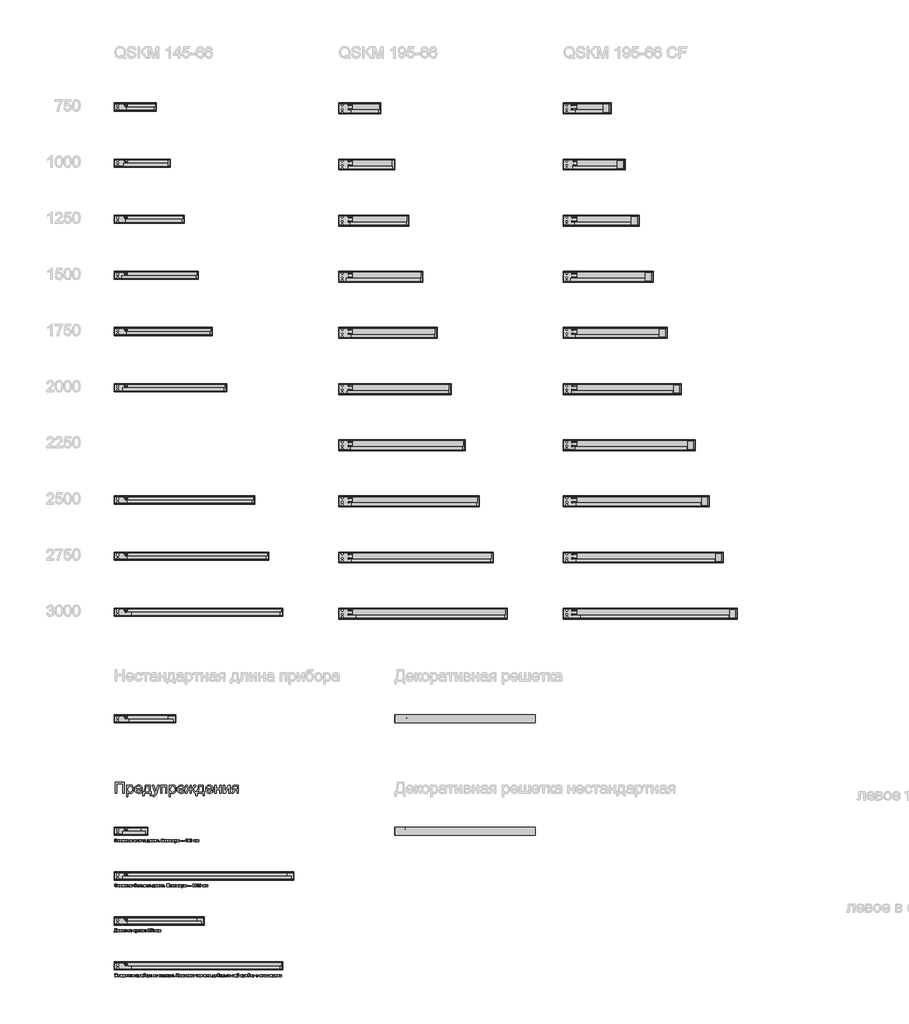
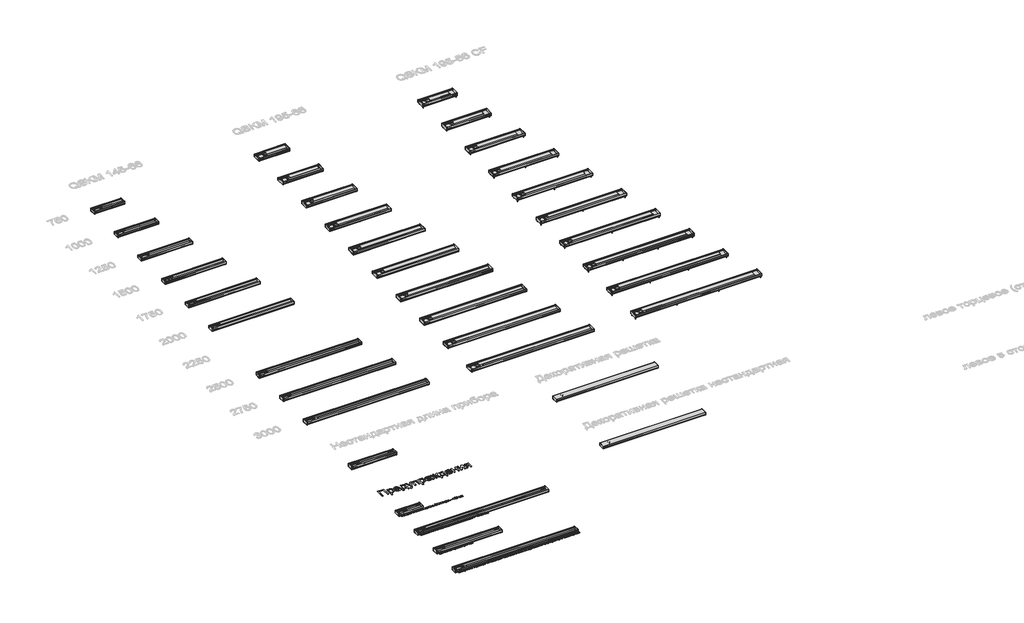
# One storey, part 1 of 17: 37 proxies.
"""IFC4 building model written with IfcOpenShell, lengths in millimetres."""

from ifc_helpers import new_model, si_unit, origin, origin_with_axes, place, context, project, spatial, polyline, outline, extrude, transform, mapped, element, save
from components import proxy_145_x_66_fdde3b2e, proxy_145_x_66_6c518053, proxy_145_x_66_d34efbbd, proxy_145_x_66_0b6a45b0, proxy_145_x_66_164ab2c3, proxy_145_x_66_e9fb857a, proxy_145_x_66_9a70aef4, proxy_145_x_66_d8024be9, proxy_145_x_66_30bb2a4e, proxy_145_x_66_77f280cb, proxy_145_x_66_4cadcc30, proxy_145_x_66_553b1ab1, proxy_145_x_66_f7945d83, proxy_145_x_66_126cd703, proxy_145_x_66_3a62f989, proxy_145_x_66_dd4702fc, proxy_145_x_66_776afb94, proxy_145_x_66_9b323317, proxy_145_x_66_7399c8b9, proxy_145_x_66_f7e18ef1, proxy_145_x_66_a9dd490d, proxy_145_x_66_dd4c954e, proxy_195_x_66_cb3d574a, proxy_195_x_66_7b87efa3, proxy_195_x_66_b28eacb2, proxy_195_x_66_d0637520, proxy_195_x_66_bf0ae810, proxy_195_x_66_bc7bac23, proxy_195_x_66_aa6f77ee, proxy_195_x_66_c971d223, proxy_195_x_66_e939ad13, proxy_195_x_66_0fd88f3c, proxy_195_x_66_8d3d11f8, proxy_195_x_66_55b345ae, proxy_195_x_66_6e926e30, proxy_195_x_66_cf_20c1678a, proxy_195_x_66_cf_8ee333b8, proxy_195_x_66_cf_f7968546, proxy_195_x_66_cf_feebd39c, proxy_195_x_66_cf_08affbe3, proxy_195_x_66_cf_86ed2aa7, proxy_195_x_66_cf_9923b446, proxy_195_x_66_cf_01404605, proxy_195_x_66_cf_dcdc219b, proxy_195_x_66_cf_5712bf5f, proxy_195_x_66_cf_cbb57332, proxy_195_x_66_cf_03e56c4b, proxy_195_x_66_cf_45be2cf6, proxy_195_x_66_cf_4e1b1b7e

model = new_model("IFC4")

# Units and contexts
model_context = context("Model", 3, world=origin())
ifc_project = project(units=[si_unit("LENGTHUNIT", "METRE", prefix="MILLI")], contexts=[model_context])

# Site, building, storey
site = spatial("IfcSite", under=ifc_project)
building = spatial("IfcBuilding", under=site)
storey = spatial("IfcBuildingStorey", under=building, Name="Уровень 1", Elevation=0.0)

# Proxies
placement = place(None, origin())
element("IfcBuildingElementProxy", 1, Name="Текст модели 1", ObjectType="Текст модели 1", at=placement, inside=storey, context=model_context, shape_type="SweptSolid", body=[
    extrude(outline(polyline([(1703.9858303, -9407.3298499), (1860.9488149, -9407.3298499), (1860.9488149, -9608.2424702), (1835.8347374, -9608.2424702), (1835.8347374, -9432.4439275), (1729.0999078, -9432.4439275), (1729.0999078, -9608.2424702), (1703.9858303, -9608.2424702), (1703.9858303, -9407.3298499)])), origin_with_axes(), (0.0, 0.0, 1.0), 2.0),
    extrude(outline(polyline([(1901.7591909, -9664.7491447), (1901.7591909, -9460.6972647), (1926.8732685, -9460.6972647), (1926.8732685, -9485.3208329), (1944.2372986, -9464.498712), (1954.930402, -9459.2931818), (1967.6836445, -9457.558005), (1984.6675299, -9459.9860262), (1999.5176998, -9467.2700897), (2011.6087547, -9478.9687371), (2020.3152952, -9494.6405101), (2025.5760078, -9513.1449745), (2027.3295786, -9533.341696), (2025.3491472, -9554.8198732), (2019.407853, -9574.0294447), (2009.6957683, -9589.9955233), (1996.4029655, -9601.7432217), (1980.9212649, -9608.9721029), (1964.6424866, -9611.3817299), (1953.0971233, -9609.7691805), (1942.7902961, -9604.9315323), (1926.8732685, -9588.6220972), (1926.8732685, -9664.7491447), (1901.7591909, -9664.7491447)]), holes=[polyline([(1926.8732685, -9535.6470899), (1929.5894639, -9558.161468), (1937.73805, -9573.9068174), (1949.7616599, -9583.1774436), (1964.1029264, -9586.2676524), (1978.6771847, -9583.067079), (1991.0073629, -9573.465359), (1999.4134665, -9557.1436611), (2002.2155011, -9533.7831544), (1999.4809116, -9511.3914037), (1991.2771431, -9495.4253251), (1979.2719273, -9485.8603932), (1965.132996, -9482.6720826), (1950.9388823, -9486.0627283), (1938.473814, -9496.2346654), (1929.7734048, -9512.869063), (1926.8732685, -9535.6470899)])]), origin_with_axes(), (0.0, 0.0, 1.0), 2.0),
    extrude(outline(polyline([(2158.8841801, -9564.2928346), (2183.5077483, -9567.4320942), (2174.6356608, -9585.9856095), (2160.4783354, -9599.8547608), (2141.354603, -9608.4999876), (2117.5832948, -9611.3817299), (2088.1159469, -9606.4091916), (2065.4421533, -9591.4915767), (2050.9843909, -9567.5976411), (2046.1651368, -9535.6961408), (2051.0334418, -9502.7216513), (2065.638357, -9478.0612949), (2088.0055823, -9462.6838275), (2116.1608177, -9457.558005), (2143.4392676, -9462.6715648), (2165.2362759, -9478.012244), (2179.5284914, -9502.6235494), (2184.2925632, -9535.548988), (2184.1454104, -9542.3180167), (2071.2792143, -9542.3180167), (2075.6263532, -9561.1167867), (2085.724714, -9574.936887), (2100.2989723, -9583.434961), (2118.0738041, -9586.2676524), (2142.6973723, -9581.0192026), (2151.8453712, -9574.2133857), (2158.8841801, -9564.2928346)]), holes=[polyline([(2071.2792143, -9517.2039392), (2159.1784857, -9517.2039392), (2155.7817086, -9503.9356619), (2149.1230445, -9494.4443064), (2134.4813411, -9485.6151385), (2116.0627158, -9482.6720826), (2099.1340127, -9485.020396), (2085.1361028, -9492.0653362), (2075.405624, -9503.0466137), (2071.2792143, -9517.2039392)])]), origin_with_axes(), (0.0, 0.0, 1.0), 2.0),
    extrude(outline(polyline([(2231.3814586, -9460.6972647), (2325.5592494, -9460.6972647), (2325.5592494, -9583.1283927), (2344.3948075, -9583.1283927), (2344.3948075, -9649.0528462), (2319.28073, -9649.0528462), (2319.28073, -9608.2424702), (2215.6851601, -9608.2424702), (2215.6851601, -9649.0528462), (2190.5710826, -9649.0528462), (2190.5710826, -9583.1283927), (2206.2673811, -9583.1283927), (2217.6778543, -9562.5086069), (2225.6670249, -9535.2301569), (2230.234893, -9501.2930429), (2231.3814586, -9460.6972647)]), holes=[polyline([(2253.3562764, -9485.8113423), (2247.4701645, -9543.0292552), (2234.5207183, -9583.1283927), (2300.4451718, -9583.1283927), (2300.4451718, -9485.8113423), (2253.3562764, -9485.8113423)])]), origin_with_axes(), (0.0, 0.0, 1.0), 2.0),
    extrude(outline(polyline([(2372.6481447, -9664.7491447), (2369.508885, -9640.5670349), (2382.2621275, -9642.7743269), (2394.1815042, -9640.0029492), (2401.4900932, -9632.2774273), (2408.3572237, -9613.7852256), (2410.319261, -9607.70291), (2356.9518463, -9460.6972647), (2383.4393499, -9460.6972647), (2411.7417381, -9542.6123223), (2421.6009756, -9575.3783453), (2431.460213, -9546.4382951), (2460.5474161, -9460.6972647), (2486.838716, -9460.6972647), (2435.4823895, -9611.7741374), (2422.1405358, -9644.5401604), (2407.5724088, -9662.2475471), (2388.0010867, -9667.8884044), (2372.6481447, -9664.7491447)])), origin_with_axes(), (0.0, 0.0, 1.0), 2.0),
    extrude(outline(polyline([(2507.6363115, -9460.6972647), (2620.6496604, -9460.6972647), (2620.6496604, -9608.2424702), (2595.5355829, -9608.2424702), (2595.5355829, -9485.8113423), (2532.750389, -9485.8113423), (2532.750389, -9608.2424702), (2507.6363115, -9608.2424702), (2507.6363115, -9460.6972647)])), origin_with_axes(), (0.0, 0.0, 1.0), 2.0),
    extrude(outline(polyline([(2658.3207767, -9664.7491447), (2658.3207767, -9460.6972647), (2683.4348543, -9460.6972647), (2683.4348543, -9485.3208329), (2700.7988844, -9464.498712), (2711.4919878, -9459.2931818), (2724.2452303, -9457.558005), (2741.2291157, -9459.9860262), (2756.0792856, -9467.2700897), (2768.1703405, -9478.9687371), (2776.876881, -9494.6405101), (2782.1375936, -9513.1449745), (2783.8911644, -9533.341696), (2781.910733, -9554.8198732), (2775.9694388, -9574.0294447), (2766.2573541, -9589.9955233), (2752.9645514, -9601.7432217), (2737.4828507, -9608.9721029), (2721.2040724, -9611.3817299), (2709.6587092, -9609.7691805), (2699.3518819, -9604.9315323), (2683.4348543, -9588.6220972), (2683.4348543, -9664.7491447), (2658.3207767, -9664.7491447)]), holes=[polyline([(2683.4348543, -9535.6470899), (2686.1510497, -9558.161468), (2694.2996359, -9573.9068174), (2706.3232457, -9583.1774436), (2720.6645122, -9586.2676524), (2735.2387706, -9583.067079), (2747.5689488, -9573.465359), (2755.9750523, -9557.1436611), (2758.7770869, -9533.7831544), (2756.0424974, -9511.3914037), (2747.8387289, -9495.4253251), (2735.8335131, -9485.8603932), (2721.6945818, -9482.6720826), (2707.5004681, -9486.0627283), (2695.0353998, -9496.2346654), (2686.3349907, -9512.869063), (2683.4348543, -9535.6470899)])]), origin_with_axes(), (0.0, 0.0, 1.0), 2.0),
    extrude(outline(polyline([(2915.4457659, -9564.2928346), (2940.0693341, -9567.4320942), (2931.1972467, -9585.9856095), (2917.0399212, -9599.8547608), (2897.9161888, -9608.4999876), (2874.1448806, -9611.3817299), (2844.6775328, -9606.4091916), (2822.0037391, -9591.4915767), (2807.5459767, -9567.5976411), (2802.7267226, -9535.6961408), (2807.5950276, -9502.7216513), (2822.1999428, -9478.0612949), (2844.5671682, -9462.6838275), (2872.7224035, -9457.558005), (2900.0008535, -9462.6715648), (2921.7978617, -9478.012244), (2936.0900772, -9502.6235494), (2940.854149, -9535.548988), (2940.7069962, -9542.3180167), (2827.8408001, -9542.3180167), (2832.187939, -9561.1167867), (2842.2862998, -9574.936887), (2856.8605582, -9583.434961), (2874.6353899, -9586.2676524), (2899.2589581, -9581.0192026), (2908.4069571, -9574.2133857), (2915.4457659, -9564.2928346)]), holes=[polyline([(2827.8408001, -9517.2039392), (2915.7400715, -9517.2039392), (2912.3432944, -9503.9356619), (2905.6846303, -9494.4443064), (2891.0429269, -9485.6151385), (2872.6243017, -9482.6720826), (2855.6955985, -9485.020396), (2841.6976886, -9492.0653362), (2831.9672098, -9503.0466137), (2827.8408001, -9517.2039392)])]), origin_with_axes(), (0.0, 0.0, 1.0), 2.0),
    extrude(outline(polyline([(3176.2986259, -9460.6972647), (3270.4764167, -9460.6972647), (3270.4764167, -9583.1283927), (3289.3119749, -9583.1283927), (3289.3119749, -9649.0528462), (3264.1978973, -9649.0528462), (3264.1978973, -9608.2424702), (3160.6023275, -9608.2424702), (3160.6023275, -9649.0528462), (3135.4882499, -9649.0528462), (3135.4882499, -9608.2424702), (3112.9738718, -9608.2424702), (3085.4072477, -9562.6251028), (3071.3541554, -9543.6669174), (3057.0067576, -9539.178757), (3057.0067576, -9608.2424702), (3031.8926801, -9608.2424702), (3031.8926801, -9539.178757), (3017.5943332, -9543.5688155), (3003.4431391, -9562.527001), (2975.876515, -9608.2424702), (2947.1326684, -9608.2424702), (2975.0426491, -9561.9874407), (2991.1681432, -9541.3983117), (3007.6615193, -9531.6249134), (2991.867119, -9521.6185231), (2978.3290616, -9495.8667835), (2971.7071857, -9487.3809721), (2960.8669296, -9485.6641895), (2953.4111878, -9485.8113423), (2953.4111878, -9460.6972647), (2957.1881096, -9460.6972647), (2979.2119784, -9462.2668946), (2990.6408457, -9468.9378214), (3003.4431391, -9491.4521995), (3017.1528748, -9518.1359069), (3022.9347535, -9522.1458206), (3031.8926801, -9523.4824586), (3031.8926801, -9460.6972647), (3057.0067576, -9460.6972647), (3057.0067576, -9523.4824586), (3065.8665824, -9522.1887402), (3071.648461, -9518.3075852), (3085.5053495, -9491.4521995), (3094.1505764, -9474.7135687), (3102.0355138, -9465.7004599), (3111.6127085, -9461.9480635), (3125.5309106, -9460.6972647), (3135.4882499, -9460.6972647), (3135.4882499, -9485.9584951), (3128.5720684, -9485.8113423), (3115.6226222, -9488.4110417), (3106.6463015, -9504.6959513), (3096.2229783, -9522.5504908), (3081.3360203, -9531.6249134), (3097.75582, -9541.3983117), (3113.7586868, -9561.9874407), (3135.4882499, -9597.873567), (3135.4882499, -9583.1283927), (3151.1845484, -9583.1283927), (3162.5950216, -9562.5086069), (3170.5841923, -9535.2301569), (3175.1520604, -9501.2930429), (3176.2986259, -9460.6972647)]), holes=[polyline([(3198.2734438, -9485.8113423), (3192.3873319, -9543.0292552), (3179.4378856, -9583.1283927), (3245.3623392, -9583.1283927), (3245.3623392, -9485.8113423), (3198.2734438, -9485.8113423)])]), origin_with_axes(), (0.0, 0.0, 1.0), 2.0),
    extrude(outline(polyline([(3420.8665763, -9564.2928346), (3445.4901445, -9567.4320942), (3436.6180571, -9585.9856095), (3422.4607316, -9599.8547608), (3403.3369993, -9608.4999876), (3379.565691, -9611.3817299), (3350.0983432, -9606.4091916), (3327.4245496, -9591.4915767), (3312.9667871, -9567.5976411), (3308.147533, -9535.6961408), (3313.0158381, -9502.7216513), (3327.6207533, -9478.0612949), (3349.9879786, -9462.6838275), (3378.143214, -9457.558005), (3405.4216639, -9462.6715648), (3427.2186721, -9478.012244), (3441.5108876, -9502.6235494), (3446.2749595, -9535.548988), (3446.1278067, -9542.3180167), (3333.2616105, -9542.3180167), (3337.6087495, -9561.1167867), (3347.7071102, -9574.936887), (3362.2813686, -9583.434961), (3380.0562003, -9586.2676524), (3404.6797685, -9581.0192026), (3413.8277675, -9574.2133857), (3420.8665763, -9564.2928346)]), holes=[polyline([(3333.2616105, -9517.2039392), (3421.1608819, -9517.2039392), (3417.7641048, -9503.9356619), (3411.1054407, -9494.4443064), (3396.4637373, -9485.6151385), (3378.0451121, -9482.6720826), (3361.1164089, -9485.020396), (3347.118499, -9492.0653362), (3337.3880203, -9503.0466137), (3333.2616105, -9517.2039392)])]), origin_with_axes(), (0.0, 0.0, 1.0), 2.0),
    extrude(outline(polyline([(3471.389037, -9460.6972647), (3496.5031145, -9460.6972647), (3496.5031145, -9517.2039392), (3562.4275681, -9517.2039392), (3562.4275681, -9460.6972647), (3587.5416456, -9460.6972647), (3587.5416456, -9608.2424702), (3562.4275681, -9608.2424702), (3562.4275681, -9542.3180167), (3496.5031145, -9542.3180167), (3496.5031145, -9608.2424702), (3471.389037, -9608.2424702), (3471.389037, -9460.6972647)])), origin_with_axes(), (0.0, 0.0, 1.0), 2.0),
    extrude(outline(polyline([(3625.2127619, -9460.6972647), (3650.3268395, -9460.6972647), (3650.3268395, -9573.2201043), (3712.0329128, -9460.6972647), (3744.5046302, -9460.6972647), (3744.5046302, -9608.2424702), (3719.3905527, -9608.2424702), (3719.3905527, -9496.4063437), (3658.0768868, -9608.2424702), (3625.2127619, -9608.2424702), (3625.2127619, -9460.6972647)])), origin_with_axes(), (0.0, 0.0, 1.0), 2.0),
    extrude(outline(polyline([(3895.1890954, -9460.6972647), (3895.1890954, -9608.2424702), (3870.0750179, -9608.2424702), (3870.0750179, -9551.7357958), (3856.3898077, -9551.7357958), (3837.7504533, -9554.9241064), (3820.2392703, -9576.359364), (3800.2264898, -9608.2424702), (3771.1883376, -9608.2424702), (3796.400517, -9567.9226036), (3807.5350787, -9553.4525784), (3817.7867237, -9547.0269063), (3800.6188972, -9541.7661937), (3788.5523678, -9531.7720662), (3781.4154571, -9518.4792634), (3779.0364868, -9503.3225252), (3782.2861111, -9486.1301733), (3792.034984, -9472.5185395), (3807.9397489, -9463.6525834), (3829.6570494, -9460.6972647), (3895.1890954, -9460.6972647)]), holes=[polyline([(3870.0750179, -9485.8113423), (3836.9656383, -9485.8113423), (3819.8652569, -9487.2644761), (3810.1593036, -9491.6238778), (3804.1505644, -9505.2355116), (3806.3639877, -9514.8065748), (3813.0042577, -9521.4468449), (3825.2731223, -9525.3279999), (3844.3723292, -9526.6217183), (3870.0750179, -9526.6217183), (3870.0750179, -9485.8113423)])]), origin_with_axes(), (0.0, 0.0, 1.0), 2.0),
])
proxy_145_x_66_shape = proxy_145_x_66_fdde3b2e(model_context)
element("IfcBuildingElementProxy", 2, Name="Mohlenhof_Внутрипольный конвектор_QSKM : 145 x 66", ObjectType="Mohlenhof_Внутрипольный конвектор_QSKM : 145 x 66", at=placement, inside=storey, context=model_context, shape_type="MappedRepresentation", body=[
    mapped(proxy_145_x_66_shape, transform((2232.0110125, -8108.2424702, 0.0), x_axis=(1.0, 0.0, 0.0), y_axis=(0.0, 1.0, 0.0), z_axis=(0.0, 0.0, 1.0))),
])
proxy_145_x_66_2_shape = proxy_145_x_66_6c518053(model_context)
element("IfcBuildingElementProxy", 3, Name="Mohlenhof_Внутрипольный конвектор_QSKM : 145 x 66", ObjectType="Mohlenhof_Внутрипольный конвектор_QSKM : 145 x 66", at=placement, inside=storey, context=model_context, shape_type="MappedRepresentation", body=[
    mapped(proxy_145_x_66_2_shape, transform((2057.0110125, 2791.7575298, 0.0), x_axis=(1.0, 0.0, 0.0), y_axis=(0.0, 1.0, 0.0), z_axis=(0.0, 0.0, 1.0))),
])
proxy_145_x_66_3_shape = proxy_145_x_66_d34efbbd(model_context)
element("IfcBuildingElementProxy", 4, Name="Mohlenhof_Внутрипольный конвектор_QSKM : 145 x 66", ObjectType="Mohlenhof_Внутрипольный конвектор_QSKM : 145 x 66", at=placement, inside=storey, context=model_context, shape_type="MappedRepresentation", body=[
    mapped(proxy_145_x_66_3_shape, transform((2182.0110125, 1791.7575298, 0.0), x_axis=(1.0, 0.0, 0.0), y_axis=(0.0, 1.0, 0.0), z_axis=(0.0, 0.0, 1.0))),
])
proxy_145_x_66_4_shape = proxy_145_x_66_0b6a45b0(model_context)
element("IfcBuildingElementProxy", 5, Name="Mohlenhof_Внутрипольный конвектор_QSKM : 145 x 66", ObjectType="Mohlenhof_Внутрипольный конвектор_QSKM : 145 x 66", at=placement, inside=storey, context=model_context, shape_type="MappedRepresentation", body=[
    mapped(proxy_145_x_66_4_shape, transform((2307.0110125, 791.7575298, 0.0), x_axis=(1.0, 0.0, 0.0), y_axis=(0.0, 1.0, 0.0), z_axis=(0.0, 0.0, 1.0))),
])
proxy_145_x_66_5_shape = proxy_145_x_66_164ab2c3(model_context)
element("IfcBuildingElementProxy", 6, Name="Mohlenhof_Внутрипольный конвектор_QSKM : 145 x 66", ObjectType="Mohlenhof_Внутрипольный конвектор_QSKM : 145 x 66", at=placement, inside=storey, context=model_context, shape_type="MappedRepresentation", body=[
    mapped(proxy_145_x_66_5_shape, transform((2432.0110125, -208.2424702, 0.0), x_axis=(1.0, 0.0, 0.0), y_axis=(0.0, 1.0, 0.0), z_axis=(0.0, 0.0, 1.0))),
])
proxy_145_x_66_6_shape = proxy_145_x_66_e9fb857a(model_context)
element("IfcBuildingElementProxy", 7, Name="Mohlenhof_Внутрипольный конвектор_QSKM : 145 x 66", ObjectType="Mohlenhof_Внутрипольный конвектор_QSKM : 145 x 66", at=placement, inside=storey, context=model_context, shape_type="MappedRepresentation", body=[
    mapped(proxy_145_x_66_6_shape, transform((2557.0110125, -1208.2424702, 0.0), x_axis=(1.0, 0.0, 0.0), y_axis=(0.0, 1.0, 0.0), z_axis=(0.0, 0.0, 1.0))),
])
proxy_145_x_66_7_shape = proxy_145_x_66_9a70aef4(model_context)
element("IfcBuildingElementProxy", 8, Name="Mohlenhof_Внутрипольный конвектор_QSKM : 145 x 66", ObjectType="Mohlenhof_Внутрипольный конвектор_QSKM : 145 x 66", at=placement, inside=storey, context=model_context, shape_type="MappedRepresentation", body=[
    mapped(proxy_145_x_66_7_shape, transform((2682.0110125, -2208.2424702, 0.0), x_axis=(1.0, 0.0, 0.0), y_axis=(0.0, 1.0, 0.0), z_axis=(0.0, 0.0, 1.0))),
])
proxy_145_x_66_8_shape = proxy_145_x_66_d8024be9(model_context)
proxy_145_x_66_9_shape = proxy_145_x_66_30bb2a4e(model_context)
element("IfcBuildingElementProxy", 9, Name="Mohlenhof_Внутрипольный конвектор_QSKM : 145 x 66", ObjectType="Mohlenhof_Внутрипольный конвектор_QSKM : 145 x 66", at=placement, inside=storey, context=model_context, shape_type="MappedRepresentation", body=[
    mapped(proxy_145_x_66_8_shape, transform((2932.0110125, -4208.2424702, 0.0), x_axis=(1.0, 0.0, 0.0), y_axis=(0.0, 1.0, 0.0), z_axis=(0.0, 0.0, 1.0))),
    mapped(proxy_145_x_66_9_shape, transform((2932.0110125, -4208.2424702, 0.0), x_axis=(1.0, 0.0, 0.0), y_axis=(0.0, 1.0, 0.0), z_axis=(0.0, 0.0, 1.0))),
])
proxy_145_x_66_10_shape = proxy_145_x_66_77f280cb(model_context)
proxy_145_x_66_11_shape = proxy_145_x_66_4cadcc30(model_context)
element("IfcBuildingElementProxy", 10, Name="Mohlenhof_Внутрипольный конвектор_QSKM : 145 x 66", ObjectType="Mohlenhof_Внутрипольный конвектор_QSKM : 145 x 66", at=placement, inside=storey, context=model_context, shape_type="MappedRepresentation", body=[
    mapped(proxy_145_x_66_10_shape, transform((3057.0110125, -5208.2424702, 0.0), x_axis=(1.0, 0.0, 0.0), y_axis=(0.0, 1.0, 0.0), z_axis=(0.0, 0.0, 1.0))),
    mapped(proxy_145_x_66_11_shape, transform((3057.0110125, -5208.2424702, 0.0), x_axis=(1.0, 0.0, 0.0), y_axis=(0.0, 1.0, 0.0), z_axis=(0.0, 0.0, 1.0))),
])
proxy_145_x_66_12_shape = proxy_145_x_66_553b1ab1(model_context)
proxy_145_x_66_13_shape = proxy_145_x_66_f7945d83(model_context)
element("IfcBuildingElementProxy", 11, Name="Mohlenhof_Внутрипольный конвектор_QSKM : 145 x 66", ObjectType="Mohlenhof_Внутрипольный конвектор_QSKM : 145 x 66", at=placement, inside=storey, context=model_context, shape_type="MappedRepresentation", body=[
    mapped(proxy_145_x_66_12_shape, transform((3182.0110125, -6208.2424702, 0.0), x_axis=(1.0, 0.0, 0.0), y_axis=(0.0, 1.0, 0.0), z_axis=(0.0, 0.0, 1.0))),
    mapped(proxy_145_x_66_13_shape, transform((3182.0110125, -6208.2424702, 0.0), x_axis=(1.0, 0.0, 0.0), y_axis=(0.0, 1.0, 0.0), z_axis=(0.0, 0.0, 1.0))),
])
proxy_145_x_66_14_shape = proxy_145_x_66_126cd703(model_context)
proxy_145_x_66_15_shape = proxy_145_x_66_3a62f989(model_context)
element("IfcBuildingElementProxy", 12, Name="Mohlenhof_Внутрипольный конвектор_QSKM : 145 x 66", ObjectType="Mohlenhof_Внутрипольный конвектор_QSKM : 145 x 66", at=placement, inside=storey, context=model_context, shape_type="MappedRepresentation", body=[
    mapped(proxy_145_x_66_14_shape, transform((1982.0110125, -10108.2424702, 0.0), x_axis=(1.0, 0.0, 0.0), y_axis=(0.0, 1.0, 0.0), z_axis=(0.0, 0.0, 1.0))),
    mapped(proxy_145_x_66_15_shape, transform((1982.0110125, -10108.2424702, 0.0), x_axis=(1.0, 0.0, 0.0), y_axis=(0.0, 1.0, 0.0), z_axis=(0.0, 0.0, 1.0))),
])
proxy_145_x_66_16_shape = proxy_145_x_66_dd4702fc(model_context)
proxy_145_x_66_17_shape = proxy_145_x_66_776afb94(model_context)
element("IfcBuildingElementProxy", 13, Name="Mohlenhof_Внутрипольный конвектор_QSKM : 145 x 66", ObjectType="Mohlenhof_Внутрипольный конвектор_QSKM : 145 x 66", at=placement, inside=storey, context=model_context, shape_type="MappedRepresentation", body=[
    mapped(proxy_145_x_66_16_shape, transform((3282.0110125, -10908.2424702, 0.0), x_axis=(1.0, 0.0, 0.0), y_axis=(0.0, 1.0, 0.0), z_axis=(0.0, 0.0, 1.0))),
    mapped(proxy_145_x_66_17_shape, transform((3282.0110125, -10908.2424702, 0.0), x_axis=(1.0, 0.0, 0.0), y_axis=(0.0, 1.0, 0.0), z_axis=(0.0, 0.0, 1.0))),
])
proxy_145_x_66_18_shape = proxy_145_x_66_9b323317(model_context)
proxy_145_x_66_19_shape = proxy_145_x_66_7399c8b9(model_context)
element("IfcBuildingElementProxy", 14, Name="Mohlenhof_Внутрипольный конвектор_QSKM : 145 x 66", ObjectType="Mohlenhof_Внутрипольный конвектор_QSKM : 145 x 66", at=placement, inside=storey, context=model_context, shape_type="MappedRepresentation", body=[
    mapped(proxy_145_x_66_18_shape, transform((2482.0110125, -11708.2424702, 0.0), x_axis=(1.0, 0.0, 0.0), y_axis=(0.0, 1.0, 0.0), z_axis=(0.0, 0.0, 1.0))),
    mapped(proxy_145_x_66_19_shape, transform((2482.0110125, -11708.2424702, 0.0), x_axis=(1.0, 0.0, 0.0), y_axis=(0.0, 1.0, 0.0), z_axis=(0.0, 0.0, 1.0))),
])
proxy_145_x_66_20_shape = proxy_145_x_66_f7e18ef1(model_context)
proxy_145_x_66_21_shape = proxy_145_x_66_a9dd490d(model_context)
element("IfcBuildingElementProxy", 15, Name="Mohlenhof_Внутрипольный конвектор_QSKM : 145 x 66", ObjectType="Mohlenhof_Внутрипольный конвектор_QSKM : 145 x 66", at=placement, inside=storey, context=model_context, shape_type="MappedRepresentation", body=[
    mapped(proxy_145_x_66_20_shape, transform((3181.5110125, -12508.2424702, 0.0), x_axis=(1.0, 0.0, 0.0), y_axis=(0.0, 1.0, 0.0), z_axis=(0.0, 0.0, 1.0))),
    mapped(proxy_145_x_66_21_shape, transform((3181.5110125, -12508.2424702, 0.0), x_axis=(1.0, 0.0, 0.0), y_axis=(0.0, 1.0, 0.0), z_axis=(0.0, 0.0, 1.0))),
])
proxy_145_x_66_22_shape = proxy_145_x_66_dd4c954e(model_context)
element("IfcBuildingElementProxy", 16, Name="Mohlenhof_Внутрипольный конвектор_QSKM : 145 x 66", ObjectType="Mohlenhof_Внутрипольный конвектор_QSKM : 145 x 66", at=placement, inside=storey, context=model_context, shape_type="MappedRepresentation", body=[
    mapped(proxy_145_x_66_22_shape, transform((7932.0110125, -8108.2424702, 0.0), x_axis=(1.0, 0.0, 0.0), y_axis=(0.0, 1.0, 0.0), z_axis=(0.0, 0.0, 1.0))),
    mapped(proxy_145_x_66_9_shape, transform((7932.0110125, -8108.2424702, 0.0), x_axis=(1.0, 0.0, 0.0), y_axis=(0.0, 1.0, 0.0), z_axis=(0.0, 0.0, 1.0))),
])
element("IfcBuildingElementProxy", 17, Name="Mohlenhof_Внутрипольный конвектор_QSKM : 145 x 66", ObjectType="Mohlenhof_Внутрипольный конвектор_QSKM : 145 x 66", at=placement, inside=storey, context=model_context, shape_type="MappedRepresentation", body=[
    mapped(proxy_145_x_66_22_shape, transform((7932.0110125, -10108.2424702, 0.0), x_axis=(1.0, 0.0, 0.0), y_axis=(0.0, 1.0, 0.0), z_axis=(0.0, 0.0, 1.0))),
    mapped(proxy_145_x_66_9_shape, transform((7932.0110125, -10108.2424702, 0.0), x_axis=(1.0, 0.0, 0.0), y_axis=(0.0, 1.0, 0.0), z_axis=(0.0, 0.0, 1.0))),
])
proxy_195_x_66_shape = proxy_195_x_66_cb3d574a(model_context)
element("IfcBuildingElementProxy", 18, Name="Mohlenhof_Внутрипольный конвектор_QSKM : 195 x 66", ObjectType="Mohlenhof_Внутрипольный конвектор_QSKM : 195 x 66", at=placement, inside=storey, context=model_context, shape_type="MappedRepresentation", body=[
    mapped(proxy_195_x_66_shape, transform((6057.0110125, 2791.7575298, 0.0), x_axis=(1.0, 0.0, 0.0), y_axis=(0.0, 1.0, 0.0), z_axis=(0.0, 0.0, 1.0))),
])
proxy_195_x_66_2_shape = proxy_195_x_66_7b87efa3(model_context)
element("IfcBuildingElementProxy", 19, Name="Mohlenhof_Внутрипольный конвектор_QSKM : 195 x 66", ObjectType="Mohlenhof_Внутрипольный конвектор_QSKM : 195 x 66", at=placement, inside=storey, context=model_context, shape_type="MappedRepresentation", body=[
    mapped(proxy_195_x_66_2_shape, transform((6182.0110125, 1791.7575298, 0.0), x_axis=(1.0, 0.0, 0.0), y_axis=(0.0, 1.0, 0.0), z_axis=(0.0, 0.0, 1.0))),
])
proxy_195_x_66_3_shape = proxy_195_x_66_b28eacb2(model_context)
element("IfcBuildingElementProxy", 20, Name="Mohlenhof_Внутрипольный конвектор_QSKM : 195 x 66", ObjectType="Mohlenhof_Внутрипольный конвектор_QSKM : 195 x 66", at=placement, inside=storey, context=model_context, shape_type="MappedRepresentation", body=[
    mapped(proxy_195_x_66_3_shape, transform((6307.0110125, 791.7575298, 0.0), x_axis=(1.0, 0.0, 0.0), y_axis=(0.0, 1.0, 0.0), z_axis=(0.0, 0.0, 1.0))),
])
proxy_195_x_66_4_shape = proxy_195_x_66_d0637520(model_context)
element("IfcBuildingElementProxy", 21, Name="Mohlenhof_Внутрипольный конвектор_QSKM : 195 x 66", ObjectType="Mohlenhof_Внутрипольный конвектор_QSKM : 195 x 66", at=placement, inside=storey, context=model_context, shape_type="MappedRepresentation", body=[
    mapped(proxy_195_x_66_4_shape, transform((6432.0110125, -208.2424702, 0.0), x_axis=(1.0, 0.0, 0.0), y_axis=(0.0, 1.0, 0.0), z_axis=(0.0, 0.0, 1.0))),
])
proxy_195_x_66_5_shape = proxy_195_x_66_bf0ae810(model_context)
element("IfcBuildingElementProxy", 22, Name="Mohlenhof_Внутрипольный конвектор_QSKM : 195 x 66", ObjectType="Mohlenhof_Внутрипольный конвектор_QSKM : 195 x 66", at=placement, inside=storey, context=model_context, shape_type="MappedRepresentation", body=[
    mapped(proxy_195_x_66_5_shape, transform((6557.0110125, -1208.2424702, 0.0), x_axis=(1.0, 0.0, 0.0), y_axis=(0.0, 1.0, 0.0), z_axis=(0.0, 0.0, 1.0))),
])
proxy_195_x_66_6_shape = proxy_195_x_66_bc7bac23(model_context)
element("IfcBuildingElementProxy", 23, Name="Mohlenhof_Внутрипольный конвектор_QSKM : 195 x 66", ObjectType="Mohlenhof_Внутрипольный конвектор_QSKM : 195 x 66", at=placement, inside=storey, context=model_context, shape_type="MappedRepresentation", body=[
    mapped(proxy_195_x_66_6_shape, transform((6682.0110125, -2208.2424702, 0.0), x_axis=(1.0, 0.0, 0.0), y_axis=(0.0, 1.0, 0.0), z_axis=(0.0, 0.0, 1.0))),
])
proxy_195_x_66_7_shape = proxy_195_x_66_aa6f77ee(model_context)
element("IfcBuildingElementProxy", 24, Name="Mohlenhof_Внутрипольный конвектор_QSKM : 195 x 66", ObjectType="Mohlenhof_Внутрипольный конвектор_QSKM : 195 x 66", at=placement, inside=storey, context=model_context, shape_type="MappedRepresentation", body=[
    mapped(proxy_195_x_66_7_shape, transform((6807.0110125, -3208.2424702, 0.0), x_axis=(1.0, 0.0, 0.0), y_axis=(0.0, 1.0, 0.0), z_axis=(0.0, 0.0, 1.0))),
])
proxy_195_x_66_8_shape = proxy_195_x_66_c971d223(model_context)
proxy_195_x_66_9_shape = proxy_195_x_66_e939ad13(model_context)
element("IfcBuildingElementProxy", 25, Name="Mohlenhof_Внутрипольный конвектор_QSKM : 195 x 66", ObjectType="Mohlenhof_Внутрипольный конвектор_QSKM : 195 x 66", at=placement, inside=storey, context=model_context, shape_type="MappedRepresentation", body=[
    mapped(proxy_195_x_66_8_shape, transform((6932.0110125, -4208.2424702, 0.0), x_axis=(1.0, 0.0, 0.0), y_axis=(0.0, 1.0, 0.0), z_axis=(0.0, 0.0, 1.0))),
    mapped(proxy_195_x_66_9_shape, transform((6932.0110125, -4208.2424702, 0.0), x_axis=(1.0, 0.0, 0.0), y_axis=(0.0, 1.0, 0.0), z_axis=(0.0, 0.0, 1.0))),
])
proxy_195_x_66_10_shape = proxy_195_x_66_0fd88f3c(model_context)
proxy_195_x_66_11_shape = proxy_195_x_66_8d3d11f8(model_context)
element("IfcBuildingElementProxy", 26, Name="Mohlenhof_Внутрипольный конвектор_QSKM : 195 x 66", ObjectType="Mohlenhof_Внутрипольный конвектор_QSKM : 195 x 66", at=placement, inside=storey, context=model_context, shape_type="MappedRepresentation", body=[
    mapped(proxy_195_x_66_10_shape, transform((7057.0110125, -5208.2424702, 0.0), x_axis=(1.0, 0.0, 0.0), y_axis=(0.0, 1.0, 0.0), z_axis=(0.0, 0.0, 1.0))),
    mapped(proxy_195_x_66_11_shape, transform((7057.0110125, -5208.2424702, 0.0), x_axis=(1.0, 0.0, 0.0), y_axis=(0.0, 1.0, 0.0), z_axis=(0.0, 0.0, 1.0))),
])
proxy_195_x_66_12_shape = proxy_195_x_66_55b345ae(model_context)
proxy_195_x_66_13_shape = proxy_195_x_66_6e926e30(model_context)
element("IfcBuildingElementProxy", 27, Name="Mohlenhof_Внутрипольный конвектор_QSKM : 195 x 66", ObjectType="Mohlenhof_Внутрипольный конвектор_QSKM : 195 x 66", at=placement, inside=storey, context=model_context, shape_type="MappedRepresentation", body=[
    mapped(proxy_195_x_66_12_shape, transform((7182.0110125, -6208.2424702, 0.0), x_axis=(1.0, 0.0, 0.0), y_axis=(0.0, 1.0, 0.0), z_axis=(0.0, 0.0, 1.0))),
    mapped(proxy_195_x_66_13_shape, transform((7182.0110125, -6208.2424702, 0.0), x_axis=(1.0, 0.0, 0.0), y_axis=(0.0, 1.0, 0.0), z_axis=(0.0, 0.0, 1.0))),
])
proxy_195_x_66_cf_shape = proxy_195_x_66_cf_20c1678a(model_context)
element("IfcBuildingElementProxy", 28, Name="Mohlenhof_Внутрипольный конвектор_QSKM CF : 195 x 66 CF", ObjectType="Mohlenhof_Внутрипольный конвектор_QSKM CF : 195 x 66 CF", at=placement, inside=storey, context=model_context, shape_type="MappedRepresentation", body=[
    mapped(proxy_195_x_66_cf_shape, transform((10107.0110125, 2791.7575298, 0.0), x_axis=(1.0, 0.0, 0.0), y_axis=(0.0, 1.0, 0.0), z_axis=(0.0, 0.0, 1.0))),
])
proxy_195_x_66_cf_2_shape = proxy_195_x_66_cf_8ee333b8(model_context)
element("IfcBuildingElementProxy", 29, Name="Mohlenhof_Внутрипольный конвектор_QSKM CF : 195 x 66 CF", ObjectType="Mohlenhof_Внутрипольный конвектор_QSKM CF : 195 x 66 CF", at=placement, inside=storey, context=model_context, shape_type="MappedRepresentation", body=[
    mapped(proxy_195_x_66_cf_2_shape, transform((10232.0110125, 1791.7575298, 0.0), x_axis=(1.0, 0.0, 0.0), y_axis=(0.0, 1.0, 0.0), z_axis=(0.0, 0.0, 1.0))),
])
proxy_195_x_66_cf_3_shape = proxy_195_x_66_cf_f7968546(model_context)
element("IfcBuildingElementProxy", 30, Name="Mohlenhof_Внутрипольный конвектор_QSKM CF : 195 x 66 CF", ObjectType="Mohlenhof_Внутрипольный конвектор_QSKM CF : 195 x 66 CF", at=placement, inside=storey, context=model_context, shape_type="MappedRepresentation", body=[
    mapped(proxy_195_x_66_cf_3_shape, transform((10357.0110125, 791.7575298, 0.0), x_axis=(1.0, 0.0, 0.0), y_axis=(0.0, 1.0, 0.0), z_axis=(0.0, 0.0, 1.0))),
])
proxy_195_x_66_cf_4_shape = proxy_195_x_66_cf_feebd39c(model_context)
element("IfcBuildingElementProxy", 31, Name="Mohlenhof_Внутрипольный конвектор_QSKM CF : 195 x 66 CF", ObjectType="Mohlenhof_Внутрипольный конвектор_QSKM CF : 195 x 66 CF", at=placement, inside=storey, context=model_context, shape_type="MappedRepresentation", body=[
    mapped(proxy_195_x_66_cf_4_shape, transform((10482.0110125, -208.2424702, 0.0), x_axis=(1.0, 0.0, 0.0), y_axis=(0.0, 1.0, 0.0), z_axis=(0.0, 0.0, 1.0))),
])
proxy_195_x_66_cf_5_shape = proxy_195_x_66_cf_08affbe3(model_context)
element("IfcBuildingElementProxy", 32, Name="Mohlenhof_Внутрипольный конвектор_QSKM CF : 195 x 66 CF", ObjectType="Mohlenhof_Внутрипольный конвектор_QSKM CF : 195 x 66 CF", at=placement, inside=storey, context=model_context, shape_type="MappedRepresentation", body=[
    mapped(proxy_195_x_66_cf_5_shape, transform((10607.0110125, -1208.2424702, 0.0), x_axis=(1.0, 0.0, 0.0), y_axis=(0.0, 1.0, 0.0), z_axis=(0.0, 0.0, 1.0))),
])
proxy_195_x_66_cf_6_shape = proxy_195_x_66_cf_86ed2aa7(model_context)
element("IfcBuildingElementProxy", 33, Name="Mohlenhof_Внутрипольный конвектор_QSKM CF : 195 x 66 CF", ObjectType="Mohlenhof_Внутрипольный конвектор_QSKM CF : 195 x 66 CF", at=placement, inside=storey, context=model_context, shape_type="MappedRepresentation", body=[
    mapped(proxy_195_x_66_cf_6_shape, transform((10732.0110125, -2208.2424702, 0.0), x_axis=(1.0, 0.0, 0.0), y_axis=(0.0, 1.0, 0.0), z_axis=(0.0, 0.0, 1.0))),
])
proxy_195_x_66_cf_7_shape = proxy_195_x_66_cf_9923b446(model_context)
proxy_195_x_66_cf_8_shape = proxy_195_x_66_cf_01404605(model_context)
element("IfcBuildingElementProxy", 34, Name="Mohlenhof_Внутрипольный конвектор_QSKM CF : 195 x 66 CF", ObjectType="Mohlenhof_Внутрипольный конвектор_QSKM CF : 195 x 66 CF", at=placement, inside=storey, context=model_context, shape_type="MappedRepresentation", body=[
    mapped(proxy_195_x_66_cf_7_shape, transform((10857.0110125, -3208.2424702, 0.0), x_axis=(1.0, 0.0, 0.0), y_axis=(0.0, 1.0, 0.0), z_axis=(0.0, 0.0, 1.0))),
    mapped(proxy_195_x_66_cf_8_shape, transform((10857.0110125, -3208.2424702, 0.0), x_axis=(1.0, 0.0, 0.0), y_axis=(0.0, 1.0, 0.0), z_axis=(0.0, 0.0, 1.0))),
])
proxy_195_x_66_cf_9_shape = proxy_195_x_66_cf_dcdc219b(model_context)
proxy_195_x_66_cf_10_shape = proxy_195_x_66_cf_5712bf5f(model_context)
element("IfcBuildingElementProxy", 35, Name="Mohlenhof_Внутрипольный конвектор_QSKM CF : 195 x 66 CF", ObjectType="Mohlenhof_Внутрипольный конвектор_QSKM CF : 195 x 66 CF", at=placement, inside=storey, context=model_context, shape_type="MappedRepresentation", body=[
    mapped(proxy_195_x_66_cf_9_shape, transform((10982.0110125, -4208.2424702, 0.0), x_axis=(1.0, 0.0, 0.0), y_axis=(0.0, 1.0, 0.0), z_axis=(0.0, 0.0, 1.0))),
    mapped(proxy_195_x_66_cf_10_shape, transform((10982.0110125, -4208.2424702, 0.0), x_axis=(1.0, 0.0, 0.0), y_axis=(0.0, 1.0, 0.0), z_axis=(0.0, 0.0, 1.0))),
])
proxy_195_x_66_cf_11_shape = proxy_195_x_66_cf_cbb57332(model_context)
proxy_195_x_66_cf_12_shape = proxy_195_x_66_cf_03e56c4b(model_context)
element("IfcBuildingElementProxy", 36, Name="Mohlenhof_Внутрипольный конвектор_QSKM CF : 195 x 66 CF", ObjectType="Mohlenhof_Внутрипольный конвектор_QSKM CF : 195 x 66 CF", at=placement, inside=storey, context=model_context, shape_type="MappedRepresentation", body=[
    mapped(proxy_195_x_66_cf_11_shape, transform((11107.0110125, -5208.2424702, 0.0), x_axis=(1.0, 0.0, 0.0), y_axis=(0.0, 1.0, 0.0), z_axis=(0.0, 0.0, 1.0))),
    mapped(proxy_195_x_66_cf_12_shape, transform((11107.0110125, -5208.2424702, 0.0), x_axis=(1.0, 0.0, 0.0), y_axis=(0.0, 1.0, 0.0), z_axis=(0.0, 0.0, 1.0))),
])
proxy_195_x_66_cf_13_shape = proxy_195_x_66_cf_45be2cf6(model_context)
proxy_195_x_66_cf_14_shape = proxy_195_x_66_cf_4e1b1b7e(model_context)
element("IfcBuildingElementProxy", 37, Name="Mohlenhof_Внутрипольный конвектор_QSKM CF : 195 x 66 CF", ObjectType="Mohlenhof_Внутрипольный конвектор_QSKM CF : 195 x 66 CF", at=placement, inside=storey, context=model_context, shape_type="MappedRepresentation", body=[
    mapped(proxy_195_x_66_cf_13_shape, transform((11232.0110125, -6208.2424702, 0.0), x_axis=(1.0, 0.0, 0.0), y_axis=(0.0, 1.0, 0.0), z_axis=(0.0, 0.0, 1.0))),
    mapped(proxy_195_x_66_cf_14_shape, transform((11232.0110125, -6208.2424702, 0.0), x_axis=(1.0, 0.0, 0.0), y_axis=(0.0, 1.0, 0.0), z_axis=(0.0, 0.0, 1.0))),
])

save(model, "model.ifc")
